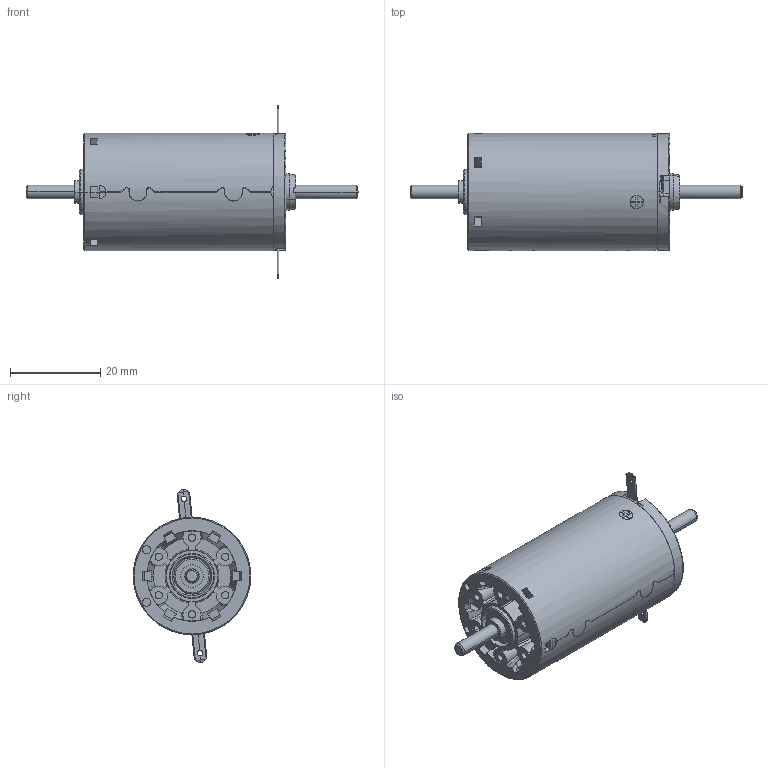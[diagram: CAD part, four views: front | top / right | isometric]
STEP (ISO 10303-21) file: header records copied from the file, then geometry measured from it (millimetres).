
FILE_DESCRIPTION((''),'2;1');
FILE_NAME('110958_AMAX26_GB_11W_KL_2WE','2016-11-22T',('mmagvisi'),(''),'CREO PARAMETRIC BY PTC INC, 2016050','CREO PARAMETRIC BY PTC INC, 2016050','');
FILE_SCHEMA(('CONFIG_CONTROL_DESIGN'));
Length unit declared in the file: millimetre
Products named in the file (1): 110958_AMAX26_GB_11W_KL_2WE
Bounding box: 73.5 x 26 x 38.32 mm (x, y, z)
Volume: 23149.9 mm3; surface area: 6748.4 mm2
Topology: 1 solids, 1 shells, 404 faces, 1099 edges, 712 vertices
Faces by surface type: plane 233, cylinder 113, cone 32, bspline 24, torus 2
Entity records: 20479 total; most frequent: CARTESIAN_POINT 4907, ORIENTED_EDGE 2198, DIRECTION 1973, PRESENTATION_STYLE_ASSIGNMENT 1385, STYLED_ITEM 1100, CURVE_STYLE 1099, EDGE_CURVE 1099, VERTEX_POINT 712
